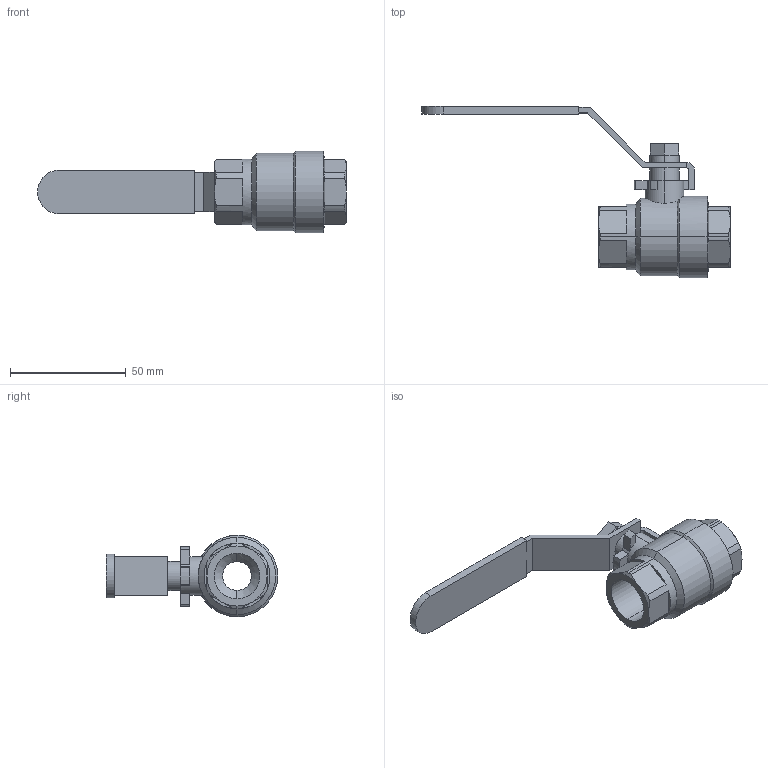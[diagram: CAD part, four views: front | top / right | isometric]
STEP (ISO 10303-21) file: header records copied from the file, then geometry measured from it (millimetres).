
FILE_DESCRIPTION (( 'STEP AP203' ), '1' );
FILE_NAME ('B3.622I015XFVPB0.STEP', '2018-12-14T09:30:56', ( 'dell2' ), ( 'Microsoft' ), 'SwSTEP 2.0', 'SolidWorks 2017', '' );
FILE_SCHEMA (( 'CONFIG_CONTROL_DESIGN' ));
Length unit declared in the file: millimetre
Products named in the file (1): B3.622I015XFVPB0
Bounding box: 133.5 x 74.1 x 35.2 mm (x, y, z)
Volume: 41474.6 mm3; surface area: 16344.8 mm2
Topology: 1 solids, 1 shells, 130 faces, 323 edges, 199 vertices
Faces by surface type: plane 72, cylinder 33, cone 25
Entity records: 4106 total; most frequent: CARTESIAN_POINT 922, DIRECTION 662, ORIENTED_EDGE 646, EDGE_CURVE 323, AXIS2_PLACEMENT_3D 244, VERTEX_POINT 199, VECTOR 174, LINE 174
